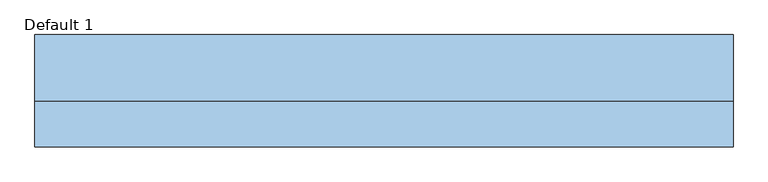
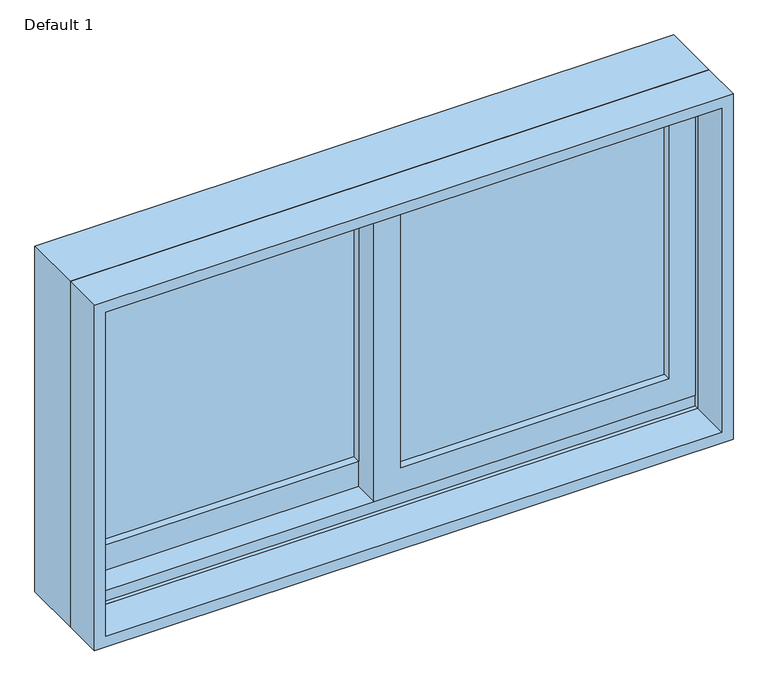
"""IFC4 building model written with IfcOpenShell, lengths in millimetres: window geometry, Planitar-Sliding-Double : Default 1."""

from ifc_helpers import new_model, si_unit, frame, origin, place, context, project, spatial, polyline, outline, extrude, faceted_brep, source, transform, mapped, element, save


def default_1_e82d8a09(model_context):
    return source(origin(), model_context, "Body", "SolidModel", [
        extrude(outline(polyline([(933.45, -514.35), (933.45, 22.225), (1504.95, 22.225), (1504.95, -514.35), (933.45, -514.35)]), holes=[polyline([(1460.5, -22.225), (996.95, -22.225), (996.95, -469.9), (1460.5, -469.9), (1460.5, -22.225)])]), frame((0.0, 40.64, 0.0), z_axis=(0.0, 1.0, 0.0), x_axis=(0.0, 0.0, 1.0)), (0.0, 0.0, 1.0), 44.45),
        extrude(outline(polyline([(952.5, 514.35), (1504.95, 514.35), (1504.95, -22.225), (952.5, -22.225), (952.5, 514.35)]), holes=[polyline([(996.95, 22.225), (1460.5, 22.225), (1460.5, 469.9), (996.95, 469.9), (996.95, 22.225)])]), frame((0.0, -3.81, 0.0), z_axis=(0.0, 1.0, 0.0), x_axis=(0.0, 0.0, 1.0)), (0.0, 0.0, 1.0), 44.45),
        faceted_brep([(-533.4, -10.16, 914.4), (-533.4, 91.44, 914.4), (533.4, 91.44, 914.4), (533.4, -10.16, 914.4), (-492.4778905, 91.44, 1483.0778905), (-492.4778905, 85.09, 1483.0778905), (-492.4778905, 85.09, 933.45), (-492.4778905, 91.44, 933.45), (492.4778905, 85.09, 1483.0778905), (492.4778905, 85.09, 933.45), (514.35, 85.09, 933.45), (514.35, 85.09, 1504.95), (-514.35, 85.09, 1504.95), (-514.35, 85.09, 933.45), (-514.35, -10.16, 1504.95), (-514.35, -10.16, 933.45), (-514.35, -3.81, 933.45), (-514.35, -3.81, 952.5), (-514.35, 40.64, 952.5), (-514.35, 40.64, 933.45), (533.4, -10.16, 1524.0), (-533.4, -10.16, 1524.0), (514.35, -10.16, 1504.95), (514.35, -10.16, 933.45), (-533.4, 91.44, 1524.0), (533.4, 91.44, 1524.0), (492.4778905, 91.44, 933.45), (492.4778905, 91.44, 1483.0778905), (514.35, 40.64, 933.45), (514.35, 40.64, 952.5), (514.35, -3.81, 952.5), (514.35, -3.81, 933.45)], [[[0, 1, 2, 3]], [[4, 5, 6, 7]], [[5, 8, 9, 10, 11, 12, 13, 6]], [[12, 14, 15, 16, 17, 18, 19, 13]], [[0, 3, 20, 21], [22, 23, 15, 14]], [[24, 1, 0, 21]], [[2, 1, 24, 25], [4, 7, 26, 27]], [[5, 4, 27, 8]], [[12, 11, 22, 14]], [[21, 20, 25, 24]], [[8, 27, 26, 9]], [[22, 11, 10, 28, 29, 30, 31, 23]], [[20, 3, 2, 25]], [[26, 7, 6, 13, 19, 28, 10, 9]], [[28, 19, 18, 29]], [[29, 18, 17, 30]], [[30, 17, 16, 31]], [[15, 23, 31, 16]]]),
        extrude(outline(polyline([(1524.0, -533.4), (914.4, -533.4), (914.4, 533.4), (1524.0, 533.4), (1524.0, -533.4)]), holes=[polyline([(1504.95, 514.35), (933.45, 514.35), (933.45, -514.35), (1504.95, -514.35), (1504.95, 514.35)])]), frame((0.0, -80.01, 0.0), z_axis=(0.0, 1.0, 0.0), x_axis=(0.0, 0.0, 1.0)), (0.0, 0.0, 1.0), 69.85),
        extrude(outline(polyline([(469.9, 27.94), (469.9, 21.59), (22.225, 21.59), (22.225, 27.94), (469.9, 27.94)])), frame((0.0, 0.0, 996.95), z_axis=(0.0, 0.0, 1.0), x_axis=(1.0, 0.0, 0.0)), (0.0, 0.0, 1.0), 463.55),
        extrude(outline(polyline([(469.9, 15.24), (469.9, 8.89), (22.225, 8.89), (22.225, 15.24), (469.9, 15.24)])), frame((0.0, 0.0, 996.95), z_axis=(0.0, 0.0, 1.0), x_axis=(1.0, 0.0, 0.0)), (0.0, 0.0, 1.0), 463.55),
        extrude(outline(polyline([(-22.225, 72.39), (-22.225, 66.04), (-469.9, 66.04), (-469.9, 72.39), (-22.225, 72.39)])), frame((0.0, 0.0, 996.95), z_axis=(0.0, 0.0, 1.0), x_axis=(1.0, 0.0, 0.0)), (0.0, 0.0, 1.0), 463.55),
        extrude(outline(polyline([(-22.225, 59.69), (-22.225, 53.34), (-469.9, 53.34), (-469.9, 59.69), (-22.225, 59.69)])), frame((0.0, 0.0, 996.95), z_axis=(0.0, 0.0, 1.0), x_axis=(1.0, 0.0, 0.0)), (0.0, 0.0, 1.0), 463.55),
    ])


if __name__ == "__main__":
    model = new_model("IFC4")
    model_context = context("Model", 3, world=origin())
    ifc_project = project(units=[si_unit("LENGTHUNIT", "METRE", prefix="MILLI")], contexts=[model_context])
    site = spatial("IfcSite", under=ifc_project)
    building = spatial("IfcBuilding", under=site)
    placement = place(None, origin())
    default_1_shape = default_1_e82d8a09(model_context)
    element("IfcWindow", 1, ObjectType="Planitar-Sliding-Double : Default 1", at=placement, inside=building, context=model_context, shape_type="MappedRepresentation", body=[
        mapped(default_1_shape, transform((0.0, 0.0, 0.0), x_axis=(1.0, 0.0, 0.0), y_axis=(0.0, 1.0, 0.0), z_axis=(0.0, 0.0, 1.0))),
    ])
    save(model, "model.ifc")
